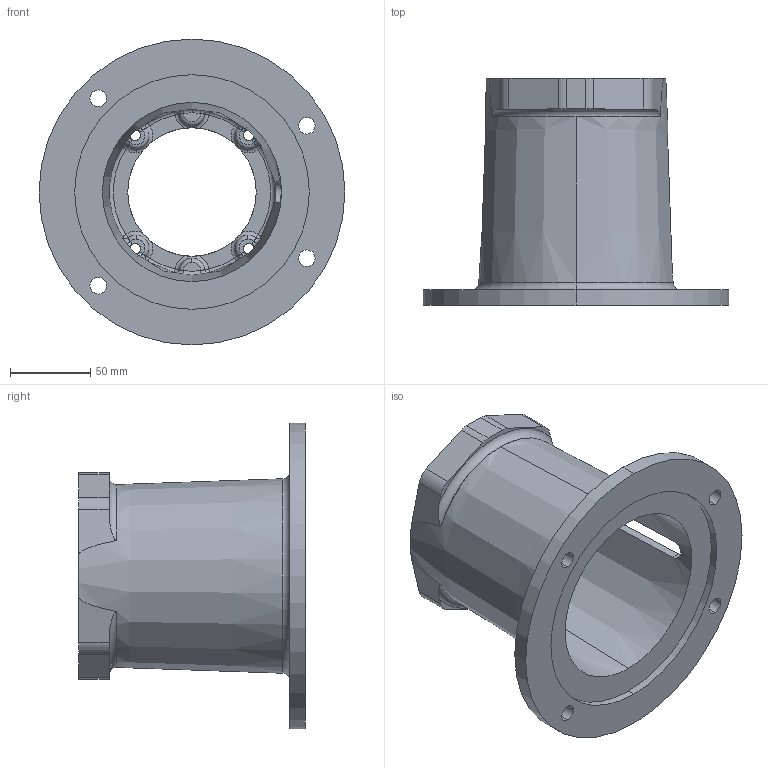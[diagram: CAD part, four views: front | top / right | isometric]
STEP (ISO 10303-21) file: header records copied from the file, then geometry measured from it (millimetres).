
FILE_DESCRIPTION (( 'STEP AP203' ), '1' );
FILE_NAME ('E5755280MS.STEP', '2014-11-03T15:46:34', ( '' ), ( '' ), 'SwSTEP 2.0', 'SolidWorks 2014', '' );
FILE_SCHEMA (( 'CONFIG_CONTROL_DESIGN' ));
Length unit declared in the file: inch
Products named in the file (1): E5755280MS
Bounding box: 190.5 x 141.22 x 190.5 mm (x, y, z)
Volume: 451664.1 mm3; surface area: 148198.1 mm2
Topology: 1 solids, 1 shells, 178 faces, 467 edges, 277 vertices
Faces by surface type: torus 52, cylinder 32, plane 30, sphere 24, bspline 24, cone 16
Entity records: 7313 total; most frequent: CARTESIAN_POINT 2941, DIRECTION 956, ORIENTED_EDGE 910, EDGE_CURVE 455, AXIS2_PLACEMENT_3D 444, CIRCLE 289, VERTEX_POINT 277, EDGE_LOOP 196
